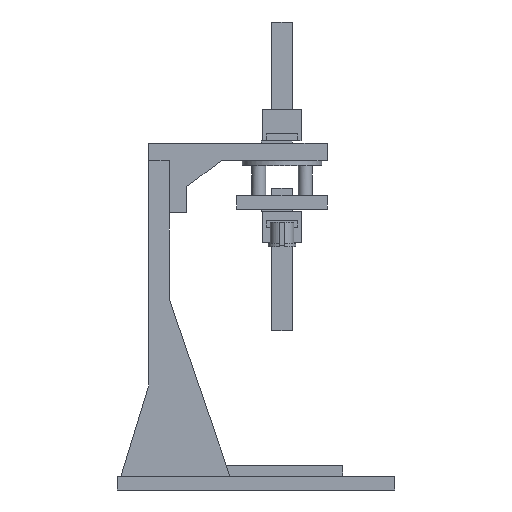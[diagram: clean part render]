
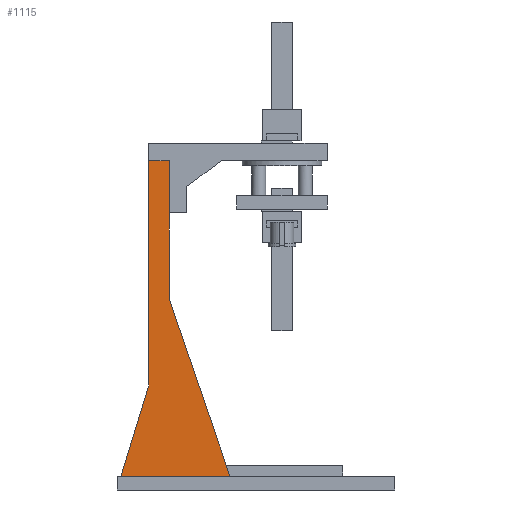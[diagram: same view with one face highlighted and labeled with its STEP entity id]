
A CAD part, left-side view. The second image highlights one B-rep face of the part: STEP entity #1115.
In plain terms, the highlighted planar face has unit normal (-1, 0, 0).
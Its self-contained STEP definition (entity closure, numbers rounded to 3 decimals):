
#172 = PLANE('',#173);
#173 = AXIS2_PLACEMENT_3D('',#174,#175,#176);
#174 = CARTESIAN_POINT('',(0.,0.,8.));
#175 = DIRECTION('',(0.,0.,1.));
#176 = DIRECTION('',(1.,0.,0.));
#426 = VERTEX_POINT('',#427);
#427 = CARTESIAN_POINT('',(45.,95.,8.));
#443 = PLANE('',#444);
#444 = AXIS2_PLACEMENT_3D('',#445,#446,#447);
#445 = CARTESIAN_POINT('',(45.,130.,110.));
#446 = DIRECTION('',(0.,0.946,-0.325));
#447 = DIRECTION('',(0.,-0.325,-0.946));
#455 = EDGE_CURVE('',#426,#456,#458,.T.);
#456 = VERTEX_POINT('',#457);
#457 = CARTESIAN_POINT('',(45.,158.,8.));
#458 = SURFACE_CURVE('',#459,(#463,#470),.PCURVE_S1.);
#459 = LINE('',#460,#461);
#460 = CARTESIAN_POINT('',(45.,95.,8.));
#461 = VECTOR('',#462,1.);
#462 = DIRECTION('',(0.,1.,0.));
#463 = PCURVE('',#172,#464);
#464 = DEFINITIONAL_REPRESENTATION('',(#465),#469);
#465 = LINE('',#466,#467);
#466 = CARTESIAN_POINT('',(45.,95.));
#467 = VECTOR('',#468,1.);
#468 = DIRECTION('',(0.,1.));
#469 = ( GEOMETRIC_REPRESENTATION_CONTEXT(2) 
PARAMETRIC_REPRESENTATION_CONTEXT() REPRESENTATION_CONTEXT('2D SPACE',''
  ) );
#470 = PCURVE('',#471,#476);
#471 = PLANE('',#472);
#472 = AXIS2_PLACEMENT_3D('',#473,#474,#475);
#473 = CARTESIAN_POINT('',(45.,146.601,30.601));
#474 = DIRECTION('',(1.,0.,0.));
#475 = DIRECTION('',(-0.,0.,1.));
#476 = DEFINITIONAL_REPRESENTATION('',(#477),#481);
#477 = LINE('',#478,#479);
#478 = CARTESIAN_POINT('',(-22.601,51.601));
#479 = VECTOR('',#480,1.);
#480 = DIRECTION('',(0.,-1.));
#481 = ( GEOMETRIC_REPRESENTATION_CONTEXT(2) 
PARAMETRIC_REPRESENTATION_CONTEXT() REPRESENTATION_CONTEXT('2D SPACE',''
  ) );
#499 = PLANE('',#500);
#500 = AXIS2_PLACEMENT_3D('',#501,#502,#503);
#501 = CARTESIAN_POINT('',(45.,158.,8.));
#502 = DIRECTION('',(0.,-0.956,-0.294));
#503 = DIRECTION('',(0.,-0.294,0.956));
#555 = PLANE('',#556);
#556 = AXIS2_PLACEMENT_3D('',#557,#558,#559);
#557 = CARTESIAN_POINT('',(45.,142.,8.));
#558 = DIRECTION('',(0.,1.,0.));
#559 = DIRECTION('',(0.,0.,1.));
#723 = PLANE('',#724);
#724 = AXIS2_PLACEMENT_3D('',#725,#726,#727);
#725 = CARTESIAN_POINT('',(45.,130.,8.));
#726 = DIRECTION('',(0.,1.,0.));
#727 = DIRECTION('',(0.,0.,1.));
#1049 = VERTEX_POINT('',#1050);
#1050 = CARTESIAN_POINT('',(45.,130.,110.));
#1095 = EDGE_CURVE('',#1049,#426,#1096,.T.);
#1096 = SURFACE_CURVE('',#1097,(#1101,#1108),.PCURVE_S1.);
#1097 = LINE('',#1098,#1099);
#1098 = CARTESIAN_POINT('',(45.,130.,110.));
#1099 = VECTOR('',#1100,1.);
#1100 = DIRECTION('',(0.,-0.325,-0.946));
#1101 = PCURVE('',#443,#1102);
#1102 = DEFINITIONAL_REPRESENTATION('',(#1103),#1107);
#1103 = LINE('',#1104,#1105);
#1104 = CARTESIAN_POINT('',(0.,0.));
#1105 = VECTOR('',#1106,1.);
#1106 = DIRECTION('',(1.,0.));
#1107 = ( GEOMETRIC_REPRESENTATION_CONTEXT(2) 
PARAMETRIC_REPRESENTATION_CONTEXT() REPRESENTATION_CONTEXT('2D SPACE',''
  ) );
#1108 = PCURVE('',#471,#1109);
#1109 = DEFINITIONAL_REPRESENTATION('',(#1110),#1114);
#1110 = LINE('',#1111,#1112);
#1111 = CARTESIAN_POINT('',(79.399,16.601));
#1112 = VECTOR('',#1113,1.);
#1113 = DIRECTION('',(-0.946,0.325));
#1114 = ( GEOMETRIC_REPRESENTATION_CONTEXT(2) 
PARAMETRIC_REPRESENTATION_CONTEXT() REPRESENTATION_CONTEXT('2D SPACE',''
  ) );
#1115 = ADVANCED_FACE('',(#1116),#471,.F.);
#1116 = FACE_BOUND('',#1117,.F.);
#1117 = EDGE_LOOP('',(#1118,#1141,#1164,#1192,#1213,#1214));
#1118 = ORIENTED_EDGE('',*,*,#1119,.T.);
#1119 = EDGE_CURVE('',#456,#1120,#1122,.T.);
#1120 = VERTEX_POINT('',#1121);
#1121 = CARTESIAN_POINT('',(45.,142.,60.));
#1122 = SURFACE_CURVE('',#1123,(#1127,#1134),.PCURVE_S1.);
#1123 = LINE('',#1124,#1125);
#1124 = CARTESIAN_POINT('',(45.,158.,8.));
#1125 = VECTOR('',#1126,1.);
#1126 = DIRECTION('',(0.,-0.294,0.956));
#1127 = PCURVE('',#471,#1128);
#1128 = DEFINITIONAL_REPRESENTATION('',(#1129),#1133);
#1129 = LINE('',#1130,#1131);
#1130 = CARTESIAN_POINT('',(-22.601,-11.399));
#1131 = VECTOR('',#1132,1.);
#1132 = DIRECTION('',(0.956,0.294));
#1133 = ( GEOMETRIC_REPRESENTATION_CONTEXT(2) 
PARAMETRIC_REPRESENTATION_CONTEXT() REPRESENTATION_CONTEXT('2D SPACE',''
  ) );
#1134 = PCURVE('',#499,#1135);
#1135 = DEFINITIONAL_REPRESENTATION('',(#1136),#1140);
#1136 = LINE('',#1137,#1138);
#1137 = CARTESIAN_POINT('',(0.,0.));
#1138 = VECTOR('',#1139,1.);
#1139 = DIRECTION('',(1.,0.));
#1140 = ( GEOMETRIC_REPRESENTATION_CONTEXT(2) 
PARAMETRIC_REPRESENTATION_CONTEXT() REPRESENTATION_CONTEXT('2D SPACE',''
  ) );
#1141 = ORIENTED_EDGE('',*,*,#1142,.T.);
#1142 = EDGE_CURVE('',#1120,#1143,#1145,.T.);
#1143 = VERTEX_POINT('',#1144);
#1144 = CARTESIAN_POINT('',(45.,142.,190.));
#1145 = SURFACE_CURVE('',#1146,(#1150,#1157),.PCURVE_S1.);
#1146 = LINE('',#1147,#1148);
#1147 = CARTESIAN_POINT('',(45.,142.,8.));
#1148 = VECTOR('',#1149,1.);
#1149 = DIRECTION('',(0.,0.,1.));
#1150 = PCURVE('',#471,#1151);
#1151 = DEFINITIONAL_REPRESENTATION('',(#1152),#1156);
#1152 = LINE('',#1153,#1154);
#1153 = CARTESIAN_POINT('',(-22.601,4.601));
#1154 = VECTOR('',#1155,1.);
#1155 = DIRECTION('',(1.,0.));
#1156 = ( GEOMETRIC_REPRESENTATION_CONTEXT(2) 
PARAMETRIC_REPRESENTATION_CONTEXT() REPRESENTATION_CONTEXT('2D SPACE',''
  ) );
#1157 = PCURVE('',#555,#1158);
#1158 = DEFINITIONAL_REPRESENTATION('',(#1159),#1163);
#1159 = LINE('',#1160,#1161);
#1160 = CARTESIAN_POINT('',(0.,0.));
#1161 = VECTOR('',#1162,1.);
#1162 = DIRECTION('',(1.,0.));
#1163 = ( GEOMETRIC_REPRESENTATION_CONTEXT(2) 
PARAMETRIC_REPRESENTATION_CONTEXT() REPRESENTATION_CONTEXT('2D SPACE',''
  ) );
#1164 = ORIENTED_EDGE('',*,*,#1165,.F.);
#1165 = EDGE_CURVE('',#1166,#1143,#1168,.T.);
#1166 = VERTEX_POINT('',#1167);
#1167 = CARTESIAN_POINT('',(45.,130.,190.));
#1168 = SURFACE_CURVE('',#1169,(#1173,#1180),.PCURVE_S1.);
#1169 = LINE('',#1170,#1171);
#1170 = CARTESIAN_POINT('',(45.,130.,190.));
#1171 = VECTOR('',#1172,1.);
#1172 = DIRECTION('',(0.,1.,0.));
#1173 = PCURVE('',#471,#1174);
#1174 = DEFINITIONAL_REPRESENTATION('',(#1175),#1179);
#1175 = LINE('',#1176,#1177);
#1176 = CARTESIAN_POINT('',(159.399,16.601));
#1177 = VECTOR('',#1178,1.);
#1178 = DIRECTION('',(0.,-1.));
#1179 = ( GEOMETRIC_REPRESENTATION_CONTEXT(2) 
PARAMETRIC_REPRESENTATION_CONTEXT() REPRESENTATION_CONTEXT('2D SPACE',''
  ) );
#1180 = PCURVE('',#1181,#1186);
#1181 = PLANE('',#1182);
#1182 = AXIS2_PLACEMENT_3D('',#1183,#1184,#1185);
#1183 = CARTESIAN_POINT('',(45.,130.,190.));
#1184 = DIRECTION('',(0.,0.,1.));
#1185 = DIRECTION('',(1.,0.,0.));
#1186 = DEFINITIONAL_REPRESENTATION('',(#1187),#1191);
#1187 = LINE('',#1188,#1189);
#1188 = CARTESIAN_POINT('',(0.,0.));
#1189 = VECTOR('',#1190,1.);
#1190 = DIRECTION('',(0.,1.));
#1191 = ( GEOMETRIC_REPRESENTATION_CONTEXT(2) 
PARAMETRIC_REPRESENTATION_CONTEXT() REPRESENTATION_CONTEXT('2D SPACE',''
  ) );
#1192 = ORIENTED_EDGE('',*,*,#1193,.F.);
#1193 = EDGE_CURVE('',#1049,#1166,#1194,.T.);
#1194 = SURFACE_CURVE('',#1195,(#1199,#1206),.PCURVE_S1.);
#1195 = LINE('',#1196,#1197);
#1196 = CARTESIAN_POINT('',(45.,130.,8.));
#1197 = VECTOR('',#1198,1.);
#1198 = DIRECTION('',(0.,0.,1.));
#1199 = PCURVE('',#471,#1200);
#1200 = DEFINITIONAL_REPRESENTATION('',(#1201),#1205);
#1201 = LINE('',#1202,#1203);
#1202 = CARTESIAN_POINT('',(-22.601,16.601));
#1203 = VECTOR('',#1204,1.);
#1204 = DIRECTION('',(1.,0.));
#1205 = ( GEOMETRIC_REPRESENTATION_CONTEXT(2) 
PARAMETRIC_REPRESENTATION_CONTEXT() REPRESENTATION_CONTEXT('2D SPACE',''
  ) );
#1206 = PCURVE('',#723,#1207);
#1207 = DEFINITIONAL_REPRESENTATION('',(#1208),#1212);
#1208 = LINE('',#1209,#1210);
#1209 = CARTESIAN_POINT('',(0.,0.));
#1210 = VECTOR('',#1211,1.);
#1211 = DIRECTION('',(1.,0.));
#1212 = ( GEOMETRIC_REPRESENTATION_CONTEXT(2) 
PARAMETRIC_REPRESENTATION_CONTEXT() REPRESENTATION_CONTEXT('2D SPACE',''
  ) );
#1213 = ORIENTED_EDGE('',*,*,#1095,.T.);
#1214 = ORIENTED_EDGE('',*,*,#455,.T.);
